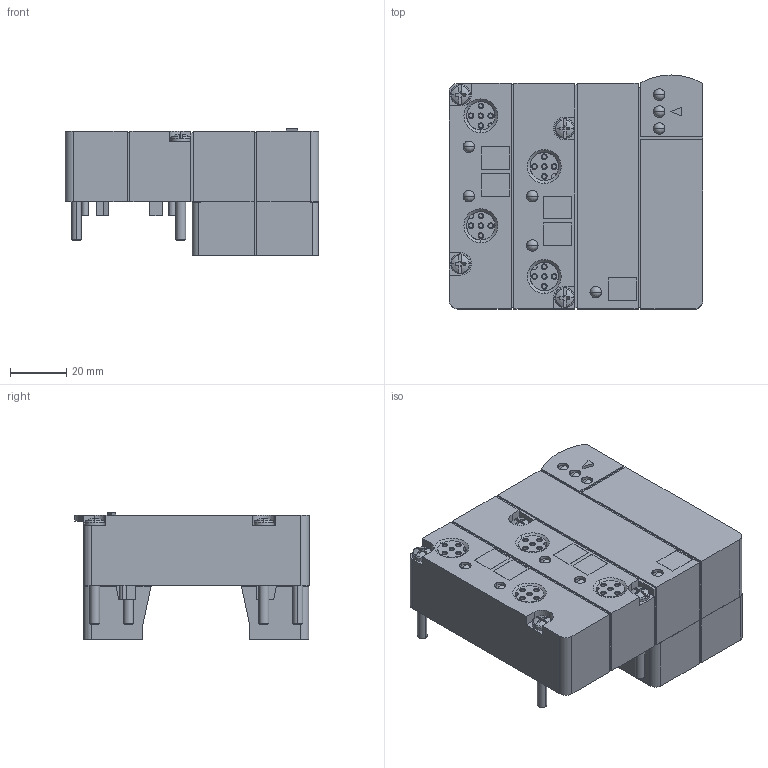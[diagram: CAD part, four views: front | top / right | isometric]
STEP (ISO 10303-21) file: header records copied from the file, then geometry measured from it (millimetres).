
FILE_DESCRIPTION( ( '' ), '1' );
FILE_NAME( '//expscmdclustefs.cadenas.external/client_exchange/iodir/jobs/output/wkb39666541_no0/STEP/ac2516_2_03_56fa68aab0d912ba39a93ed9979b71de.stp', '2011-12-01T10:25:24', ( '' ), ( '' ), ' ', ' ', ' ' );
FILE_SCHEMA( ( 'CONFIG_CONTROL_DESIGN' ) );
Length unit declared in the file: millimetre
Products named in the file (1): 1
Bounding box: 90 x 83 x 45 mm (x, y, z)
Volume: 216625.3 mm3; surface area: 35568.8 mm2
Topology: 1 solids, 1 shells, 462 faces, 1104 edges, 694 vertices
Faces by surface type: plane 220, cylinder 138, cone 56, sphere 32, torus 16
Entity records: 13526 total; most frequent: DIRECTION 2464, CARTESIAN_POINT 2453, ORIENTED_EDGE 2176, EDGE_CURVE 1088, AXIS2_PLACEMENT_3D 929, VERTEX_POINT 694, LINE 606, VECTOR 606
